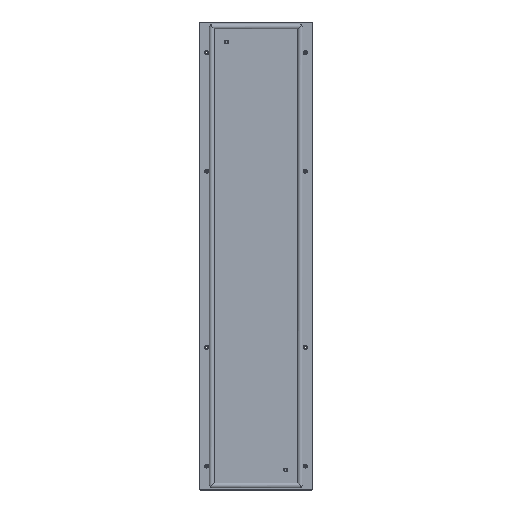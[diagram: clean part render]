
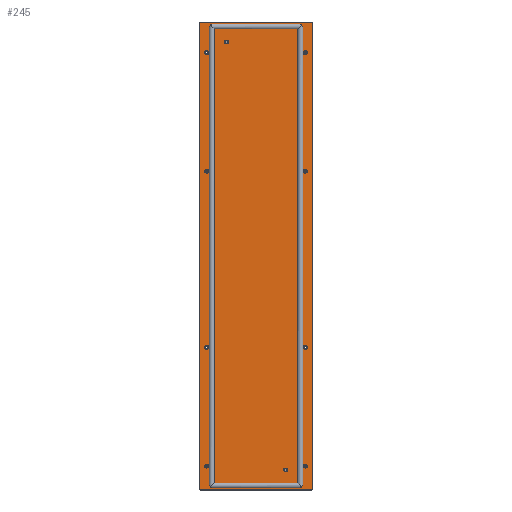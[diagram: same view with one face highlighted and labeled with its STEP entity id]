
A CAD part, top view. The second image highlights one B-rep face of the part: STEP entity #245.
In plain terms, the highlighted planar face has unit normal (0, 0, 1).
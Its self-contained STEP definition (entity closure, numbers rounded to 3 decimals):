
#245=ADVANCED_FACE('',(#1370,#1372,#1374,#1376,#1378,#1380,#1382,#1384,#1386,#1388,
#1390),#1392,.T.);
#1370=FACE_BOUND('',#1371,.T.);
#1371=EDGE_LOOP('',(#2637,#2638,#2639,#2640));
#1372=FACE_BOUND('',#1373,.T.);
#1373=EDGE_LOOP('',(#2641));
#1374=FACE_BOUND('',#1375,.T.);
#1375=EDGE_LOOP('',(#2642));
#1376=FACE_BOUND('',#1377,.T.);
#1377=EDGE_LOOP('',(#2643));
#1378=FACE_BOUND('',#1379,.T.);
#1379=EDGE_LOOP('',(#2644));
#1380=FACE_BOUND('',#1381,.T.);
#1381=EDGE_LOOP('',(#2645));
#1382=FACE_BOUND('',#1383,.T.);
#1383=EDGE_LOOP('',(#2646));
#1384=FACE_BOUND('',#1385,.T.);
#1385=EDGE_LOOP('',(#2647));
#1386=FACE_BOUND('',#1387,.T.);
#1387=EDGE_LOOP('',(#2648));
#1388=FACE_BOUND('',#1389,.T.);
#1389=EDGE_LOOP('',(#2649));
#1390=FACE_BOUND('',#1391,.T.);
#1391=EDGE_LOOP('',(#2650));
#1392=PLANE('',#1393);
#1393=AXIS2_PLACEMENT_3D('',#1394,#1395,#1396);
#1394=CARTESIAN_POINT('',(0.,0.,1.4));
#1395=DIRECTION('',(0.,0.,1.));
#1396=DIRECTION('',(1.,0.,0.));
#2637=ORIENTED_EDGE('',*,*,#3165,.F.);
#2638=ORIENTED_EDGE('',*,*,#3166,.F.);
#2639=ORIENTED_EDGE('',*,*,#3167,.F.);
#2640=ORIENTED_EDGE('',*,*,#3168,.F.);
#2641=ORIENTED_EDGE('',*,*,#3129,.F.);
#2642=ORIENTED_EDGE('',*,*,#3131,.F.);
#2643=ORIENTED_EDGE('',*,*,#3145,.F.);
#2644=ORIENTED_EDGE('',*,*,#3135,.F.);
#2645=ORIENTED_EDGE('',*,*,#3139,.F.);
#2646=ORIENTED_EDGE('',*,*,#3137,.F.);
#2647=ORIENTED_EDGE('',*,*,#3147,.F.);
#2648=ORIENTED_EDGE('',*,*,#3143,.F.);
#2649=ORIENTED_EDGE('',*,*,#3133,.F.);
#2650=ORIENTED_EDGE('',*,*,#3141,.F.);
#3129=EDGE_CURVE('',#3393,#3393,#3394,.T.);
#3131=EDGE_CURVE('',#3397,#3397,#3398,.T.);
#3133=EDGE_CURVE('',#3401,#3401,#3402,.T.);
#3135=EDGE_CURVE('',#3405,#3405,#3406,.T.);
#3137=EDGE_CURVE('',#3409,#3409,#3410,.T.);
#3139=EDGE_CURVE('',#3413,#3413,#3414,.T.);
#3141=EDGE_CURVE('',#3417,#3417,#3418,.T.);
#3143=EDGE_CURVE('',#3421,#3421,#3422,.T.);
#3145=EDGE_CURVE('',#3425,#3425,#3426,.T.);
#3147=EDGE_CURVE('',#3429,#3429,#3430,.T.);
#3165=EDGE_CURVE('',#3465,#3466,#3467,.T.);
#3166=EDGE_CURVE('',#3468,#3465,#3469,.T.);
#3167=EDGE_CURVE('',#3470,#3468,#3471,.T.);
#3168=EDGE_CURVE('',#3466,#3470,#3472,.T.);
#3393=VERTEX_POINT('',#3829);
#3394=CIRCLE('',#3830,0.5);
#3397=VERTEX_POINT('',#3839);
#3398=CIRCLE('',#3840,0.5);
#3401=VERTEX_POINT('',#3849);
#3402=CIRCLE('',#3850,6.75);
#3405=VERTEX_POINT('',#3859);
#3406=CIRCLE('',#3860,6.75);
#3409=VERTEX_POINT('',#3869);
#3410=CIRCLE('',#3870,6.75);
#3413=VERTEX_POINT('',#3879);
#3414=CIRCLE('',#3880,6.75);
#3417=VERTEX_POINT('',#3889);
#3418=CIRCLE('',#3890,6.75);
#3421=VERTEX_POINT('',#3899);
#3422=CIRCLE('',#3900,6.75);
#3425=VERTEX_POINT('',#3909);
#3426=CIRCLE('',#3910,6.75);
#3429=VERTEX_POINT('',#3919);
#3430=CIRCLE('',#3920,6.75);
#3465=VERTEX_POINT('',#4009);
#3466=VERTEX_POINT('',#4010);
#3467=LINE('',#4011,#4012);
#3468=VERTEX_POINT('',#4014);
#3469=LINE('',#4015,#4016);
#3470=VERTEX_POINT('',#4018);
#3471=LINE('',#4019,#4020);
#3472=LINE('',#4022,#4023);
#3829=CARTESIAN_POINT('',(100.5,-725.,1.4));
#3830=AXIS2_PLACEMENT_3D('',#3831,#3832,#3833);
#3831=CARTESIAN_POINT('',(100.,-725.,1.4));
#3832=DIRECTION('',(0.,0.,1.));
#3833=DIRECTION('',(-1.,0.,0.));
#3839=CARTESIAN_POINT('',(-99.5,725.,1.4));
#3840=AXIS2_PLACEMENT_3D('',#3841,#3842,#3843);
#3841=CARTESIAN_POINT('',(-100.,725.,1.4));
#3842=DIRECTION('',(0.,0.,1.));
#3843=DIRECTION('',(-1.,0.,0.));
#3849=CARTESIAN_POINT('',(173.75,689.25,1.4));
#3850=AXIS2_PLACEMENT_3D('',#3851,#3852,#3853);
#3851=CARTESIAN_POINT('',(167.,689.25,1.4));
#3852=DIRECTION('',(0.,0.,1.));
#3853=DIRECTION('',(-1.,0.,0.));
#3859=CARTESIAN_POINT('',(-160.25,-309.75,1.4));
#3860=AXIS2_PLACEMENT_3D('',#3861,#3862,#3863);
#3861=CARTESIAN_POINT('',(-167.,-309.75,1.4));
#3862=DIRECTION('',(0.,0.,1.));
#3863=DIRECTION('',(-1.,0.,0.));
#3869=CARTESIAN_POINT('',(173.75,-711.75,1.4));
#3870=AXIS2_PLACEMENT_3D('',#3871,#3872,#3873);
#3871=CARTESIAN_POINT('',(167.,-711.75,1.4));
#3872=DIRECTION('',(0.,0.,1.));
#3873=DIRECTION('',(-1.,0.,0.));
#3879=CARTESIAN_POINT('',(-160.25,-711.75,1.4));
#3880=AXIS2_PLACEMENT_3D('',#3881,#3882,#3883);
#3881=CARTESIAN_POINT('',(-167.,-711.75,1.4));
#3882=DIRECTION('',(0.,0.,1.));
#3883=DIRECTION('',(-1.,0.,0.));
#3889=CARTESIAN_POINT('',(-160.25,689.25,1.4));
#3890=AXIS2_PLACEMENT_3D('',#3891,#3892,#3893);
#3891=CARTESIAN_POINT('',(-167.,689.25,1.4));
#3892=DIRECTION('',(0.,0.,1.));
#3893=DIRECTION('',(-1.,0.,0.));
#3899=CARTESIAN_POINT('',(173.75,287.25,1.4));
#3900=AXIS2_PLACEMENT_3D('',#3901,#3902,#3903);
#3901=CARTESIAN_POINT('',(167.,287.25,1.4));
#3902=DIRECTION('',(0.,0.,1.));
#3903=DIRECTION('',(-1.,0.,0.));
#3909=CARTESIAN_POINT('',(-160.25,287.25,1.4));
#3910=AXIS2_PLACEMENT_3D('',#3911,#3912,#3913);
#3911=CARTESIAN_POINT('',(-167.,287.25,1.4));
#3912=DIRECTION('',(0.,0.,1.));
#3913=DIRECTION('',(-1.,0.,0.));
#3919=CARTESIAN_POINT('',(173.75,-309.75,1.4));
#3920=AXIS2_PLACEMENT_3D('',#3921,#3922,#3923);
#3921=CARTESIAN_POINT('',(167.,-309.75,1.4));
#3922=DIRECTION('',(0.,0.,1.));
#3923=DIRECTION('',(-1.,0.,0.));
#4009=CARTESIAN_POINT('',(189.8,789.8,1.4));
#4010=CARTESIAN_POINT('',(189.8,-789.8,1.4));
#4011=CARTESIAN_POINT('',(189.8,789.8,1.4));
#4012=VECTOR('',#4013,1.);
#4013=DIRECTION('',(0.,-1.,0.));
#4014=CARTESIAN_POINT('',(-189.8,789.8,1.4));
#4015=CARTESIAN_POINT('',(-189.8,789.8,1.4));
#4016=VECTOR('',#4017,1.);
#4017=DIRECTION('',(1.,0.,0.));
#4018=CARTESIAN_POINT('',(-189.8,-789.8,1.4));
#4019=CARTESIAN_POINT('',(-189.8,-789.8,1.4));
#4020=VECTOR('',#4021,1.);
#4021=DIRECTION('',(0.,1.,0.));
#4022=CARTESIAN_POINT('',(189.8,-789.8,1.4));
#4023=VECTOR('',#4024,1.);
#4024=DIRECTION('',(-1.,0.,0.));
